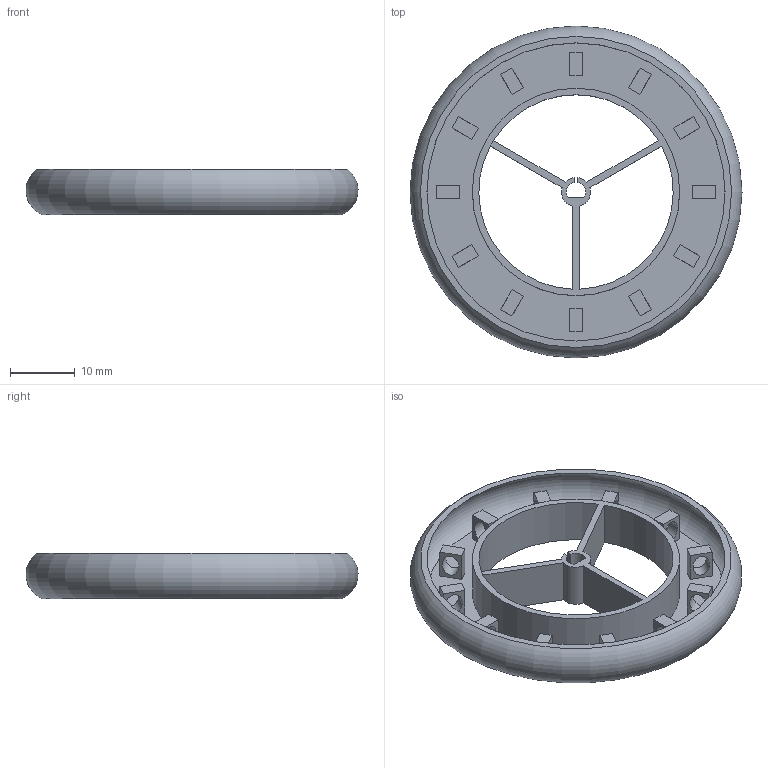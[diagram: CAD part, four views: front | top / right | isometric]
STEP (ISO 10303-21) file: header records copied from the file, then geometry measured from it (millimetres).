
FILE_DESCRIPTION(/* description */ (''),/* implementation_level */ '2;1');
FILE_NAME(/* name */ 'C:/Users/priba/Documents/Temp/Backup/Wheel 3-50 v3.step',/* time_stamp */ '2019-07-02T17:34:46+02:00',/* author */ (''),/* organization */ (''),/* preprocessor_version */ 'ST-DEVELOPER v18',/* originating_system */ 'Autodesk Translation Framework v8.2.0.1029',/* authorisation */ '');
FILE_SCHEMA (('AUTOMOTIVE_DESIGN { 1 0 10303 214 3 1 1 }'));
Length unit declared in the file: millimetre
Products named in the file (1): Wheel 3-50
Bounding box: 51.23 x 51.23 x 7 mm (x, y, z)
Volume: 2313 mm3; surface area: 7394.3 mm2
Topology: 1 solids, 1 shells, 99 faces, 255 edges, 172 vertices
Faces by surface type: plane 74, bspline 12, cylinder 11, torus 2
Full cylindrical faces by diameter (mm): 32 x1
Entity records: 3257 total; most frequent: CARTESIAN_POINT 731, ORIENTED_EDGE 510, DIRECTION 489, EDGE_CURVE 255, LINE 197, VECTOR 197, VERTEX_POINT 172, AXIS2_PLACEMENT_3D 146
